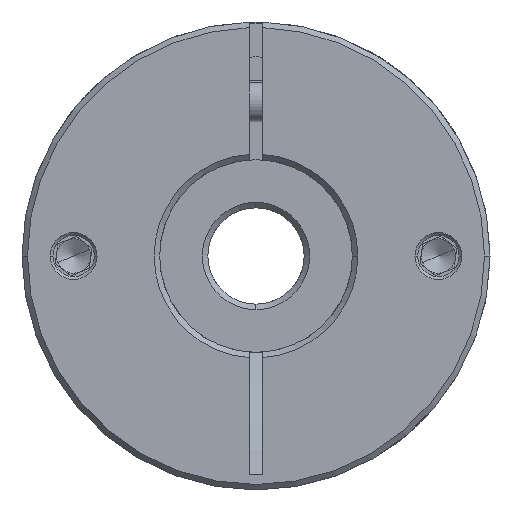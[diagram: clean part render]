
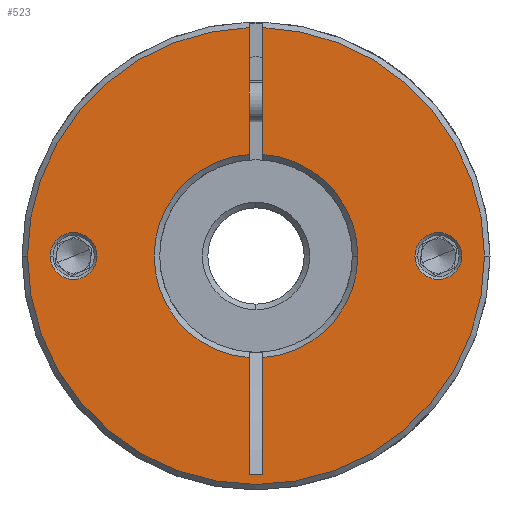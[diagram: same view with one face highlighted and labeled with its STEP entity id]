
A CAD part, front view. The second image highlights one B-rep face of the part: STEP entity #523.
In plain terms, the highlighted planar face has unit normal (0, -1, 0).
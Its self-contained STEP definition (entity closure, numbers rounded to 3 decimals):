
#15 = CARTESIAN_POINT ( 'NONE',  ( -3.735, -47.045, 53.234 ) ) ;
#37 = CARTESIAN_POINT ( 'NONE',  ( -1.735, -47.045, 82.766 ) ) ;
#169 = VERTEX_POINT ( 'NONE', #6196 ) ;
#240 = DIRECTION ( 'NONE',  ( 1., 0., 0. ) ) ;
#312 = AXIS2_PLACEMENT_3D ( 'NONE', #13007, #6713, #2565 ) ;
#369 = DIRECTION ( 'NONE',  ( 1., 0., 0. ) ) ;
#371 = EDGE_CURVE ( 'NONE', #9336, #4523, #11982, .T. ) ;
#511 = ORIENTED_EDGE ( 'NONE', *, *, #4536, .T. ) ;
#523 = ADVANCED_FACE ( 'NONE', ( #2247, #10175, #7450 ), #3786, .T. ) ;
#846 = EDGE_CURVE ( 'NONE', #11126, #7022, #11129, .T. ) ;
#888 = CARTESIAN_POINT ( 'NONE',  ( 20.365, -47.045, 68. ) ) ;
#901 = AXIS2_PLACEMENT_3D ( 'NONE', #5498, #12738, #240 ) ;
#1018 = DIRECTION ( 'NONE',  ( 1., 0., 0. ) ) ;
#1126 = VERTEX_POINT ( 'NONE', #15 ) ;
#1275 = EDGE_CURVE ( 'NONE', #3267, #13000, #5964, .T. ) ;
#1528 = EDGE_CURVE ( 'NONE', #13000, #5605, #9189, .T. ) ;
#1657 = CARTESIAN_POINT ( 'NONE',  ( 30.465, -47.045, 68. ) ) ;
#1741 = EDGE_CURVE ( 'NONE', #5607, #11822, #3810, .T. ) ;
#1797 = ORIENTED_EDGE ( 'NONE', *, *, #9113, .T. ) ;
#1805 = CARTESIAN_POINT ( 'NONE',  ( -1.735, -47.045, 101.185 ) ) ;
#1875 = ORIENTED_EDGE ( 'NONE', *, *, #12796, .F. ) ;
#2048 = DIRECTION ( 'NONE',  ( 0., -1., 0. ) ) ;
#2246 = AXIS2_PLACEMENT_3D ( 'NONE', #2528, #11875, #369 ) ;
#2247 = FACE_BOUND ( 'NONE', #4389, .T. ) ;
#2357 = CARTESIAN_POINT ( 'NONE',  ( -3.735, -47.045, 68. ) ) ;
#2428 = CIRCLE ( 'NONE', #11236, 14.8 ) ;
#2461 = CIRCLE ( 'NONE', #2246, 3.4 ) ;
#2496 = AXIS2_PLACEMENT_3D ( 'NONE', #7235, #2048, #9333 ) ;
#2528 = CARTESIAN_POINT ( 'NONE',  ( -29.235, -47.045, 68. ) ) ;
#2565 = DIRECTION ( 'NONE',  ( 1., 0., 0. ) ) ;
#2769 = CARTESIAN_POINT ( 'NONE',  ( -1.735, -47.045, 68. ) ) ;
#2972 = ORIENTED_EDGE ( 'NONE', *, *, #9535, .F. ) ;
#3229 = CARTESIAN_POINT ( 'NONE',  ( -3.735, -47.045, 101.185 ) ) ;
#3267 = VERTEX_POINT ( 'NONE', #1805 ) ;
#3272 = DIRECTION ( 'NONE',  ( 0., 1., 0. ) ) ;
#3527 = AXIS2_PLACEMENT_3D ( 'NONE', #5690, #7766, #10852 ) ;
#3528 = DIRECTION ( 'NONE',  ( 0., 0., -1. ) ) ;
#3784 = ORIENTED_EDGE ( 'NONE', *, *, #1275, .T. ) ;
#3786 = PLANE ( 'NONE',  #10978 ) ;
#3810 = CIRCLE ( 'NONE', #7483, 3.4 ) ;
#3824 = ORIENTED_EDGE ( 'NONE', *, *, #1528, .T. ) ;
#4296 = ORIENTED_EDGE ( 'NONE', *, *, #7326, .T. ) ;
#4376 = CARTESIAN_POINT ( 'NONE',  ( 23.765, -47.045, 68. ) ) ;
#4389 = EDGE_LOOP ( 'NONE', ( #6249, #6958 ) ) ;
#4466 = CARTESIAN_POINT ( 'NONE',  ( -1.735, -47.045, 68. ) ) ;
#4523 = VERTEX_POINT ( 'NONE', #5643 ) ;
#4536 = EDGE_CURVE ( 'NONE', #6694, #169, #8787, .T. ) ;
#4539 = ORIENTED_EDGE ( 'NONE', *, *, #371, .T. ) ;
#4881 = CARTESIAN_POINT ( 'NONE',  ( -1.735, -47.045, 36.279 ) ) ;
#4960 = DIRECTION ( 'NONE',  ( 1., 0., 0. ) ) ;
#5325 = VECTOR ( 'NONE', #11766, 1000. ) ;
#5498 = CARTESIAN_POINT ( 'NONE',  ( -29.235, -47.045, 68. ) ) ;
#5605 = VERTEX_POINT ( 'NONE', #8870 ) ;
#5607 = VERTEX_POINT ( 'NONE', #9747 ) ;
#5638 = CARTESIAN_POINT ( 'NONE',  ( -3.735, -47.045, 68. ) ) ;
#5643 = CARTESIAN_POINT ( 'NONE',  ( -3.735, -47.045, 36.279 ) ) ;
#5690 = CARTESIAN_POINT ( 'NONE',  ( -2.735, -47.045, 68. ) ) ;
#5746 = EDGE_CURVE ( 'NONE', #11822, #5607, #6514, .T. ) ;
#5751 = CARTESIAN_POINT ( 'NONE',  ( -25.835, -47.045, 68. ) ) ;
#5858 = DIRECTION ( 'NONE',  ( 0., -1., 0. ) ) ;
#5901 = EDGE_LOOP ( 'NONE', ( #1797, #10954 ) ) ;
#5964 = LINE ( 'NONE', #4466, #5325 ) ;
#5972 = CARTESIAN_POINT ( 'NONE',  ( 23.765, -47.045, 68. ) ) ;
#6196 = CARTESIAN_POINT ( 'NONE',  ( -35.935, -47.045, 68. ) ) ;
#6249 = ORIENTED_EDGE ( 'NONE', *, *, #1741, .T. ) ;
#6272 = EDGE_CURVE ( 'NONE', #169, #6279, #7125, .T. ) ;
#6279 = VERTEX_POINT ( 'NONE', #1657 ) ;
#6507 = CARTESIAN_POINT ( 'NONE',  ( -3.735, -47.045, 82.766 ) ) ;
#6514 = CIRCLE ( 'NONE', #9444, 3.4 ) ;
#6694 = VERTEX_POINT ( 'NONE', #3229 ) ;
#6713 = DIRECTION ( 'NONE',  ( 0., 1., 0. ) ) ;
#6782 = ORIENTED_EDGE ( 'NONE', *, *, #6272, .T. ) ;
#6938 = CARTESIAN_POINT ( 'NONE',  ( -2.735, -47.045, 68. ) ) ;
#6958 = ORIENTED_EDGE ( 'NONE', *, *, #5746, .T. ) ;
#6989 = DIRECTION ( 'NONE',  ( 0., 1., 0. ) ) ;
#7022 = VERTEX_POINT ( 'NONE', #5751 ) ;
#7029 = VECTOR ( 'NONE', #9040, 1000. ) ;
#7121 = VECTOR ( 'NONE', #9764, 1000. ) ;
#7125 = CIRCLE ( 'NONE', #7384, 33.2 ) ;
#7169 = DIRECTION ( 'NONE',  ( 0., 0., -1. ) ) ;
#7235 = CARTESIAN_POINT ( 'NONE',  ( -2.735, -47.045, 68. ) ) ;
#7326 = EDGE_CURVE ( 'NONE', #1126, #9016, #8129, .T. ) ;
#7359 = LINE ( 'NONE', #2769, #7029 ) ;
#7374 = CARTESIAN_POINT ( 'NONE',  ( -1.735, -47.045, 53.234 ) ) ;
#7384 = AXIS2_PLACEMENT_3D ( 'NONE', #9994, #5858, #10977 ) ;
#7450 = FACE_OUTER_BOUND ( 'NONE', #13055, .T. ) ;
#7483 = AXIS2_PLACEMENT_3D ( 'NONE', #5972, #10117, #4960 ) ;
#7511 = DIRECTION ( 'NONE',  ( 1., 0., 0. ) ) ;
#7742 = VERTEX_POINT ( 'NONE', #7374 ) ;
#7766 = DIRECTION ( 'NONE',  ( 0., -1., 0. ) ) ;
#7855 = DIRECTION ( 'NONE',  ( 1., 0., 0. ) ) ;
#8004 = DIRECTION ( 'NONE',  ( 1., 0., 0. ) ) ;
#8129 = CIRCLE ( 'NONE', #13447, 14.8 ) ;
#8355 = DIRECTION ( 'NONE',  ( 0., 1., 0. ) ) ;
#8505 = EDGE_CURVE ( 'NONE', #7742, #9336, #7359, .T. ) ;
#8634 = LINE ( 'NONE', #2357, #10058 ) ;
#8787 = CIRCLE ( 'NONE', #3527, 33.2 ) ;
#8870 = CARTESIAN_POINT ( 'NONE',  ( 12.065, -47.045, 68. ) ) ;
#8878 = EDGE_CURVE ( 'NONE', #6279, #3267, #11542, .T. ) ;
#9016 = VERTEX_POINT ( 'NONE', #6507 ) ;
#9040 = DIRECTION ( 'NONE',  ( 0., 0., -1. ) ) ;
#9113 = EDGE_CURVE ( 'NONE', #7022, #11126, #2461, .T. ) ;
#9189 = CIRCLE ( 'NONE', #312, 14.8 ) ;
#9333 = DIRECTION ( 'NONE',  ( 1., 0., 0. ) ) ;
#9336 = VERTEX_POINT ( 'NONE', #4881 ) ;
#9444 = AXIS2_PLACEMENT_3D ( 'NONE', #4376, #3272, #7511 ) ;
#9535 = EDGE_CURVE ( 'NONE', #6694, #9016, #8634, .T. ) ;
#9681 = CARTESIAN_POINT ( 'NONE',  ( -3.735, -47.045, 36.279 ) ) ;
#9747 = CARTESIAN_POINT ( 'NONE',  ( 27.165, -47.045, 68. ) ) ;
#9757 = ORIENTED_EDGE ( 'NONE', *, *, #8878, .T. ) ;
#9764 = DIRECTION ( 'NONE',  ( -1., 0., 0. ) ) ;
#9948 = ORIENTED_EDGE ( 'NONE', *, *, #8505, .T. ) ;
#9994 = CARTESIAN_POINT ( 'NONE',  ( -2.735, -47.045, 68. ) ) ;
#10058 = VECTOR ( 'NONE', #7169, 1000. ) ;
#10117 = DIRECTION ( 'NONE',  ( 0., 1., 0. ) ) ;
#10175 = FACE_BOUND ( 'NONE', #5901, .T. ) ;
#10498 = EDGE_CURVE ( 'NONE', #5605, #7742, #2428, .T. ) ;
#10852 = DIRECTION ( 'NONE',  ( 1., 0., 0. ) ) ;
#10954 = ORIENTED_EDGE ( 'NONE', *, *, #846, .T. ) ;
#10977 = DIRECTION ( 'NONE',  ( 1., 0., 0. ) ) ;
#10978 = AXIS2_PLACEMENT_3D ( 'NONE', #11071, #11026, #7855 ) ;
#11026 = DIRECTION ( 'NONE',  ( 0., -1., 0. ) ) ;
#11071 = CARTESIAN_POINT ( 'NONE',  ( -2.735, -47.045, 68. ) ) ;
#11126 = VERTEX_POINT ( 'NONE', #11634 ) ;
#11129 = CIRCLE ( 'NONE', #901, 3.4 ) ;
#11236 = AXIS2_PLACEMENT_3D ( 'NONE', #6938, #6989, #8004 ) ;
#11542 = CIRCLE ( 'NONE', #2496, 33.2 ) ;
#11634 = CARTESIAN_POINT ( 'NONE',  ( -32.635, -47.045, 68. ) ) ;
#11766 = DIRECTION ( 'NONE',  ( 0., 0., -1. ) ) ;
#11822 = VERTEX_POINT ( 'NONE', #888 ) ;
#11875 = DIRECTION ( 'NONE',  ( 0., 1., 0. ) ) ;
#11892 = ORIENTED_EDGE ( 'NONE', *, *, #10498, .T. ) ;
#11982 = LINE ( 'NONE', #9681, #7121 ) ;
#12599 = CARTESIAN_POINT ( 'NONE',  ( -2.735, -47.045, 68. ) ) ;
#12604 = LINE ( 'NONE', #5638, #13416 ) ;
#12738 = DIRECTION ( 'NONE',  ( 0., 1., 0. ) ) ;
#12796 = EDGE_CURVE ( 'NONE', #1126, #4523, #12604, .T. ) ;
#13000 = VERTEX_POINT ( 'NONE', #37 ) ;
#13007 = CARTESIAN_POINT ( 'NONE',  ( -2.735, -47.045, 68. ) ) ;
#13055 = EDGE_LOOP ( 'NONE', ( #2972, #511, #6782, #9757, #3784, #3824, #11892, #9948, #4539, #1875, #4296 ) ) ;
#13416 = VECTOR ( 'NONE', #3528, 1000. ) ;
#13447 = AXIS2_PLACEMENT_3D ( 'NONE', #12599, #8355, #1018 ) ;
